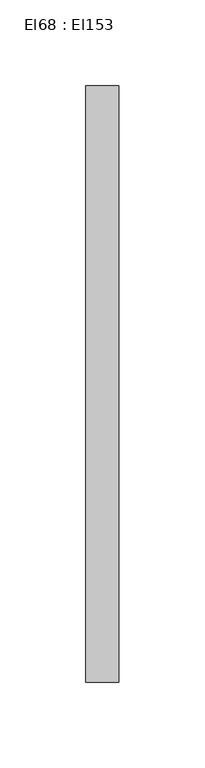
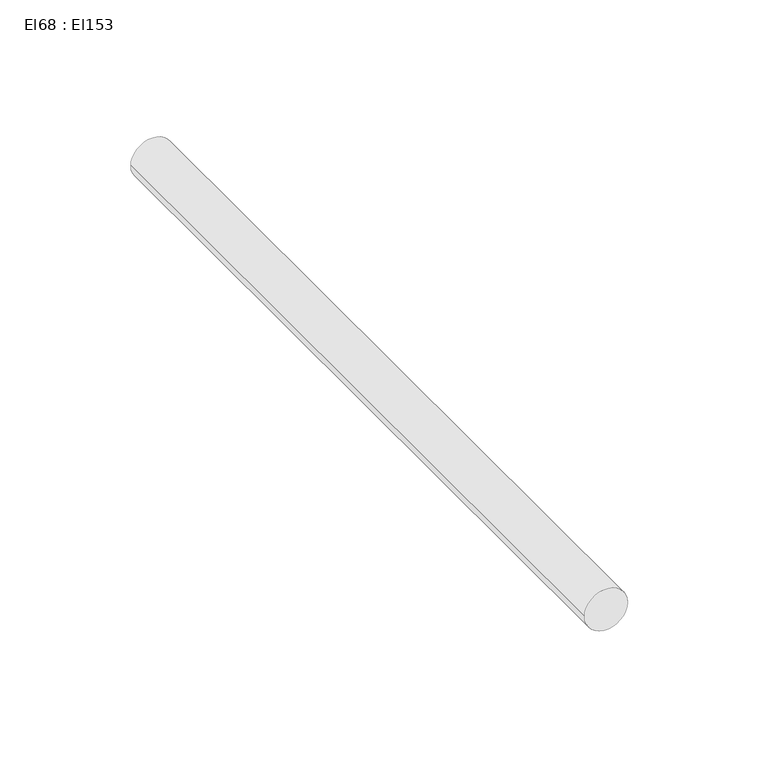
"""IFC4 building model written with IfcOpenShell, lengths in millimetres: cable carrier segment geometry, El68 : El153."""

from ifc_helpers import new_model, si_unit, point, frame, frame_2d, origin, place, context, project, spatial, circle_curve, trimmed, segment, composite_curve, outline, extrude, source, transform, mapped, element, save


def el68_el153_5135b2cc(model_context):
    return source(origin(), model_context, "Body", "SweptSolid", [
        extrude(outline(composite_curve([segment(trimmed(circle_curve(frame_2d((2700.0, 19844.4746511)), 9.5), [point((2700.0, 19834.9746511))], [point((2700.0, 19853.9746511))], False, "CARTESIAN"), True, "CONTINUOUS"), segment(trimmed(circle_curve(frame_2d((2700.0, 19844.4746511)), 9.5), [point((2700.0, 19853.9746511))], [point((2700.0, 19834.9746511))], False, "CARTESIAN"), True, "CONTINUOUS")], self_intersect=False)), frame((0.0, 937.0491745, 0.0), z_axis=(0.0, 1.0, 0.0), x_axis=(0.0, 0.0, 1.0)), (0.0, 0.0, 1.0), 346.566),
    ])


if __name__ == "__main__":
    model = new_model("IFC4")
    model_context = context("Model", 3, world=origin())
    ifc_project = project(units=[si_unit("LENGTHUNIT", "METRE", prefix="MILLI")], contexts=[model_context])
    site = spatial("IfcSite", under=ifc_project)
    building = spatial("IfcBuilding", under=site)
    placement = place(None, origin())
    el68_el153_shape = el68_el153_5135b2cc(model_context)
    element("IfcCableCarrierSegment", 1, ObjectType="El68 : El153", at=placement, inside=building, context=model_context, shape_type="MappedRepresentation", body=[
        mapped(el68_el153_shape, transform((0.0, 0.0, 0.0), x_axis=(1.0, 0.0, 0.0), y_axis=(0.0, 1.0, 0.0), z_axis=(0.0, 0.0, 1.0))),
    ])
    save(model, "model.ifc")
